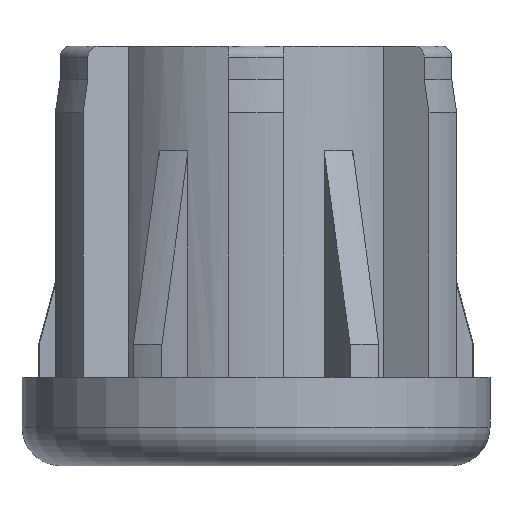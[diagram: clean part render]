
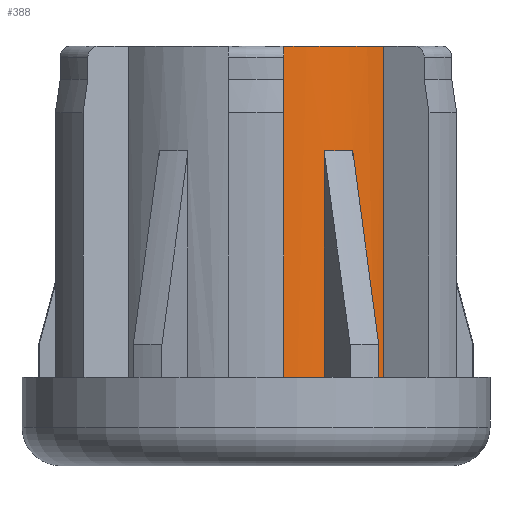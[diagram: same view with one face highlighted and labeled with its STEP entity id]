
A CAD part, front view. The second image highlights one B-rep face of the part: STEP entity #388.
In plain terms, the highlighted cylindrical face has radius 15 mm (diameter 30 mm), a partial arc.
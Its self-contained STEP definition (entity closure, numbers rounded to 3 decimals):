
#23 = EDGE_CURVE ( 'NONE', #3031, #2769, #581, .T. ) ;
#31 = VECTOR ( 'NONE', #467, 1000. ) ;
#40 = AXIS2_PLACEMENT_3D ( 'NONE', #199, #1623, #3598 ) ;
#138 = DIRECTION ( 'NONE',  ( 0., 0., 1. ) ) ;
#199 = CARTESIAN_POINT ( 'NONE',  ( 0., 0., 7.25 ) ) ;
#205 = VERTEX_POINT ( 'NONE', #255 ) ;
#241 = DIRECTION ( 'NONE',  ( 0., 0., -1. ) ) ;
#255 = CARTESIAN_POINT ( 'NONE',  ( 11.559, -9.56, 37.25 ) ) ;
#296 = VECTOR ( 'NONE', #1638, 1000. ) ;
#362 = ORIENTED_EDGE ( 'NONE', *, *, #760, .T. ) ;
#388 = ADVANCED_FACE ( 'NONE', ( #1540 ), #1119, .T. ) ;
#422 = VECTOR ( 'NONE', #956, 1000. ) ;
#467 = DIRECTION ( 'NONE',  ( 0., 0., -1. ) ) ;
#556 = ORIENTED_EDGE ( 'NONE', *, *, #2831, .T. ) ;
#581 = CIRCLE ( 'NONE', #2529, 15. ) ;
#615 = CARTESIAN_POINT ( 'NONE',  ( 0., 0., 37.25 ) ) ;
#665 = LINE ( 'NONE', #1366, #296 ) ;
#743 = CARTESIAN_POINT ( 'NONE',  ( 0., 0., 7.25 ) ) ;
#760 = EDGE_CURVE ( 'NONE', #858, #3031, #665, .T. ) ;
#762 = CARTESIAN_POINT ( 'NONE',  ( 11.559, -9.56, 7.25 ) ) ;
#843 = VECTOR ( 'NONE', #241, 1000. ) ;
#858 = VERTEX_POINT ( 'NONE', #2845 ) ;
#956 = DIRECTION ( 'NONE',  ( 0., 0., -1. ) ) ;
#1079 = AXIS2_PLACEMENT_3D ( 'NONE', #615, #1743, #2340 ) ;
#1113 = CARTESIAN_POINT ( 'NONE',  ( 11.559, -9.56, 37.25 ) ) ;
#1119 = CYLINDRICAL_SURFACE ( 'NONE', #1079, 15. ) ;
#1162 = CARTESIAN_POINT ( 'NONE',  ( 8.761, -12.175, 7.25 ) ) ;
#1195 = EDGE_CURVE ( 'NONE', #1339, #205, #3586, .T. ) ;
#1295 = LINE ( 'NONE', #2185, #31 ) ;
#1339 = VERTEX_POINT ( 'NONE', #2632 ) ;
#1350 = ORIENTED_EDGE ( 'NONE', *, *, #1998, .F. ) ;
#1366 = CARTESIAN_POINT ( 'NONE',  ( 8.761, -12.175, 37.25 ) ) ;
#1485 = CARTESIAN_POINT ( 'NONE',  ( 6.163, -13.675, 27.791 ) ) ;
#1496 = LINE ( 'NONE', #1113, #843 ) ;
#1540 = FACE_OUTER_BOUND ( 'NONE', #1632, .T. ) ;
#1560 = ORIENTED_EDGE ( 'NONE', *, *, #23, .T. ) ;
#1606 = CARTESIAN_POINT ( 'NONE',  ( 0., 0., 37.25 ) ) ;
#1623 = DIRECTION ( 'NONE',  ( 0., 0., 1. ) ) ;
#1632 = EDGE_LOOP ( 'NONE', ( #2372, #556, #3042, #1350, #2428, #362, #1560, #3175 ) ) ;
#1638 = DIRECTION ( 'NONE',  ( 0., 0., -1. ) ) ;
#1715 = CARTESIAN_POINT ( 'NONE',  ( 6.163, -13.675, 7.25 ) ) ;
#1742 = EDGE_CURVE ( 'NONE', #205, #2769, #1496, .T. ) ;
#1743 = DIRECTION ( 'NONE',  ( 0., 0., 1. ) ) ;
#1747 = EDGE_CURVE ( 'NONE', #858, #1978, #2922, .T. ) ;
#1763 = VERTEX_POINT ( 'NONE', #2291 ) ;
#1898 = DIRECTION ( 'NONE',  ( 0., 0., 1. ) ) ;
#1978 = VERTEX_POINT ( 'NONE', #1485 ) ;
#1998 = EDGE_CURVE ( 'NONE', #1978, #2516, #3181, .T. ) ;
#2068 = CARTESIAN_POINT ( 'NONE',  ( 6.163, -13.675, 37.25 ) ) ;
#2171 = CIRCLE ( 'NONE', #40, 15. ) ;
#2185 = CARTESIAN_POINT ( 'NONE',  ( 2.5, -14.79, 37.25 ) ) ;
#2197 = CARTESIAN_POINT ( 'NONE',  ( 0., 0., 27.791 ) ) ;
#2291 = CARTESIAN_POINT ( 'NONE',  ( 2.5, -14.79, 7.25 ) ) ;
#2340 = DIRECTION ( 'NONE',  ( -1., 0., 0. ) ) ;
#2372 = ORIENTED_EDGE ( 'NONE', *, *, #1195, .F. ) ;
#2428 = ORIENTED_EDGE ( 'NONE', *, *, #1747, .F. ) ;
#2516 = VERTEX_POINT ( 'NONE', #1715 ) ;
#2529 = AXIS2_PLACEMENT_3D ( 'NONE', #743, #138, #3535 ) ;
#2632 = CARTESIAN_POINT ( 'NONE',  ( 2.5, -14.79, 37.25 ) ) ;
#2763 = EDGE_CURVE ( 'NONE', #1763, #2516, #2171, .T. ) ;
#2769 = VERTEX_POINT ( 'NONE', #762 ) ;
#2831 = EDGE_CURVE ( 'NONE', #1339, #1763, #1295, .T. ) ;
#2845 = CARTESIAN_POINT ( 'NONE',  ( 8.761, -12.175, 27.791 ) ) ;
#2922 = CIRCLE ( 'NONE', #3030, 15. ) ;
#3030 = AXIS2_PLACEMENT_3D ( 'NONE', #2197, #3057, #3323 ) ;
#3031 = VERTEX_POINT ( 'NONE', #1162 ) ;
#3042 = ORIENTED_EDGE ( 'NONE', *, *, #2763, .T. ) ;
#3057 = DIRECTION ( 'NONE',  ( 0., 0., -1. ) ) ;
#3175 = ORIENTED_EDGE ( 'NONE', *, *, #1742, .F. ) ;
#3181 = LINE ( 'NONE', #2068, #422 ) ;
#3323 = DIRECTION ( 'NONE',  ( -1., 0., 0. ) ) ;
#3342 = DIRECTION ( 'NONE',  ( 1., 0., 0. ) ) ;
#3396 = AXIS2_PLACEMENT_3D ( 'NONE', #1606, #1898, #3342 ) ;
#3535 = DIRECTION ( 'NONE',  ( 1., 0., 0. ) ) ;
#3586 = CIRCLE ( 'NONE', #3396, 15. ) ;
#3598 = DIRECTION ( 'NONE',  ( 1., 0., 0. ) ) ;
